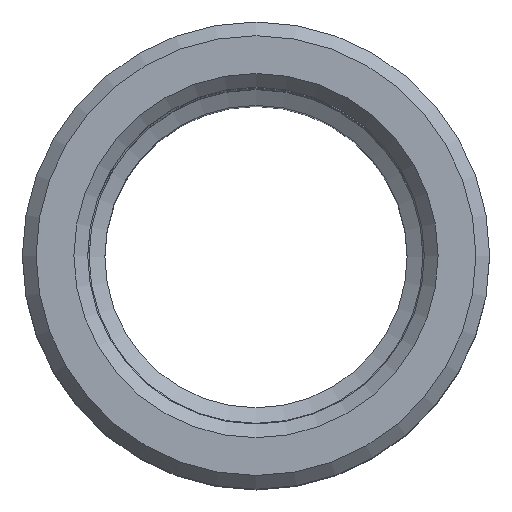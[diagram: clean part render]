
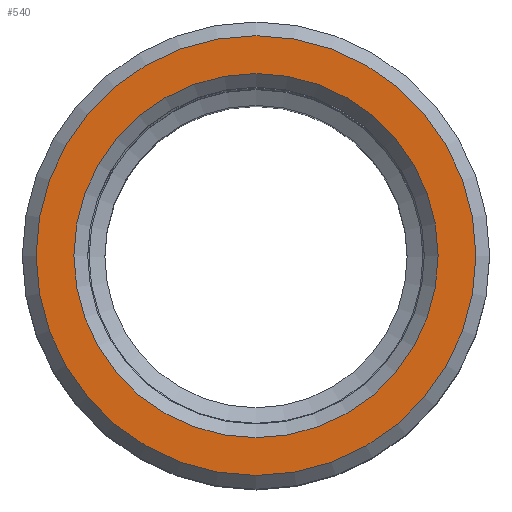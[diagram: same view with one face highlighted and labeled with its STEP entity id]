
A CAD part, top view. The second image highlights one B-rep face of the part: STEP entity #540.
In plain terms, the highlighted planar face has unit normal (0, 0, 1).
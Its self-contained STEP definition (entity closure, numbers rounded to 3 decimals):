
#540=ADVANCED_FACE('', (#550,#560), #570, .T.);
#2560=AXIS2_PLACEMENT_3D('Ax2Pl3d', #2570, #2580, #2590);
#2600=AXIS2_PLACEMENT_3D('Ax2Pl3d', #2610, #2620, #2630);
#2640=AXIS2_PLACEMENT_3D('Ax2Pl3d', #2650, #2660, #2670);
#2570=CARTESIAN_POINT('HicPkt', (36.202,27.932,
64.214));
#4970=CARTESIAN_POINT('', (44.202,27.932,64.214));
#2610=CARTESIAN_POINT('HicPkt', (44.202,27.932,
64.214));
#2650=CARTESIAN_POINT('HicPkt', (36.202,27.932,
64.214));
#4980=CARTESIAN_POINT('', (42.827,27.932,64.214));
#5350=CIRCLE('Circle', #2560, 8.);
#5360=CIRCLE('Circle', #2640, 6.625);
#2580=DIRECTION('Axis', (0.,0.,-1.));
#2590=DIRECTION('RefDirection', (-1.,-0.,0.));
#2620=DIRECTION('Axis', (0.,0.,1.));
#2630=DIRECTION('RefDirection', (1.,0.,-0.));
#2660=DIRECTION('Axis', (0.,0.,-1.));
#2670=DIRECTION('RefDirection', (-1.,-0.,0.));
#7080=EDGE_CURVE('', #7090, #7090, #5350, .T.);
#7100=EDGE_CURVE('', #7110, #7110, #5360, .T.);
#8060=EDGE_LOOP('Edge_loop', (#8070));
#8080=EDGE_LOOP('Edge_loop', (#8090));
#560=FACE_BOUND('', #8080, .T.);
#550=FACE_OUTER_BOUND('Face_outer_bound', #8060, .T.);
#8070=ORIENTED_EDGE('', *, *, #7080, .F.);
#8090=ORIENTED_EDGE('', *, *, #7100, .T.);
#570=PLANE('Plane', #2600);
#7090=VERTEX_POINT('', #4970);
#7110=VERTEX_POINT('', #4980);
